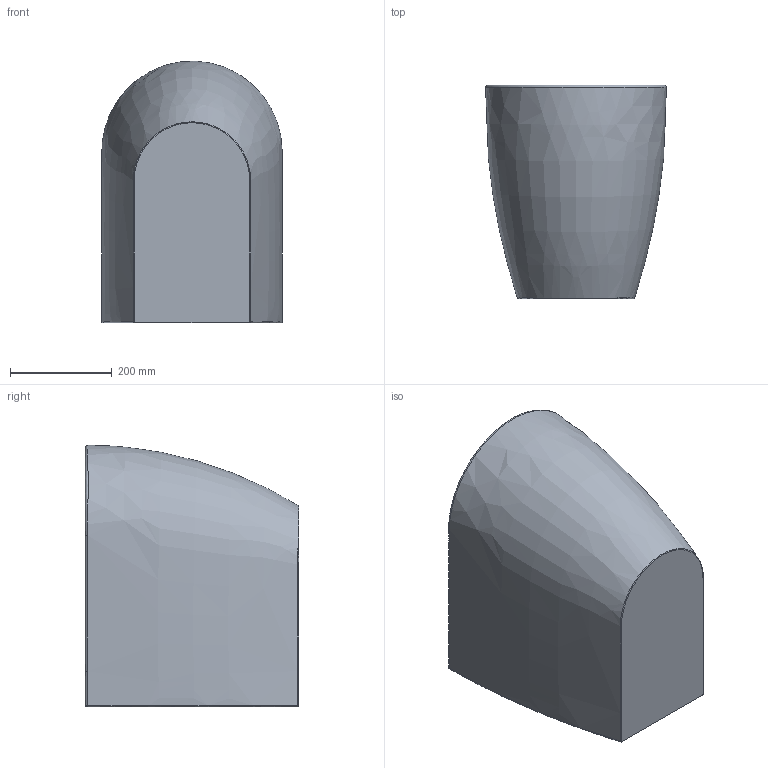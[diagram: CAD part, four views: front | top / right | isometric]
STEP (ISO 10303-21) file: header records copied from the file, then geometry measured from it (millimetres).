
FILE_DESCRIPTION(/* description */ (''),/* implementation_level */ '2;1');
FILE_NAME(/* name */ 'C:\Users\m.cicconi\Desktop\AZZURRA 3D\07 COMODA\SANITARI COMODA\COMODA SANITARI STEP\COM500.stp',/* time_stamp */ '2017-12-20T11:28:21+01:00',/* author */ ('m.cicconi'),/* organization */ (''),/* preprocessor_version */ 'ST-DEVELOPER v16.1',/* originating_system */ 'Autodesk Inventor 2016',/* authorisation */ '');
FILE_SCHEMA (('AUTOMOTIVE_DESIGN { 1 0 10303 214 3 1 1 }'));
Length unit declared in the file: metre
Products named in the file (1): COM500
Bounding box: 355.11 x 420 x 514.86 mm (x, y, z)
Volume: 48145582.9 mm3; surface area: 982234.6 mm2
Topology: 1 solids, 1 shells, 46 faces, 113 edges, 74 vertices
Faces by surface type: bspline 24, plane 13, cylinder 8, cone 1
Full cylindrical faces by diameter (mm): 20 x1, 35 x1, 47 x1
Entity records: 7052 total; most frequent: CARTESIAN_POINT 6123, ORIENTED_EDGE 216, DIRECTION 129, EDGE_CURVE 108, VERTEX_POINT 73, EDGE_LOOP 55, B_SPLINE_CURVE_WITH_KNOTS 55, AXIS2_PLACEMENT_3D 53
